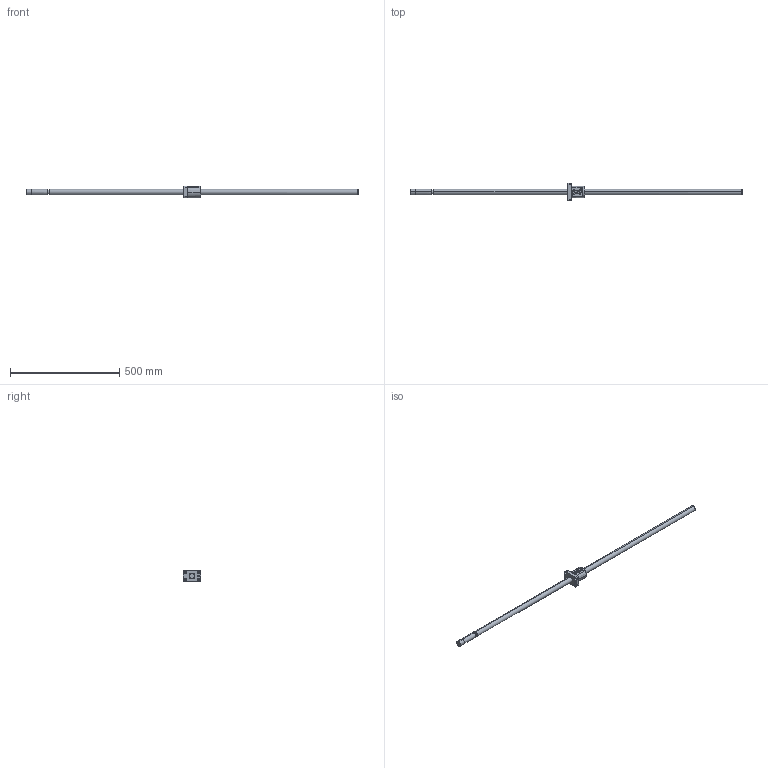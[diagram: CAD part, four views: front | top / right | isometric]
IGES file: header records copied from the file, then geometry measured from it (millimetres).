
Global section: file name: No Iges File Name specified; native system: AutoDesk Inventor R10; preprocessor: AutoDesk Inventor Iges Exporter R10; author: No Author specified; organization: No Organization specified; date: 20101224.142238; units: millimetre
Bounding box: 1520 x 78 x 54 mm (x, y, z)
Surface area: 151366.2 mm2 (no closed solid volume)
Topology: 0 solids, 0 shells, 136 faces, 988 edges, 986 vertices
Faces by surface type: bspline 136
